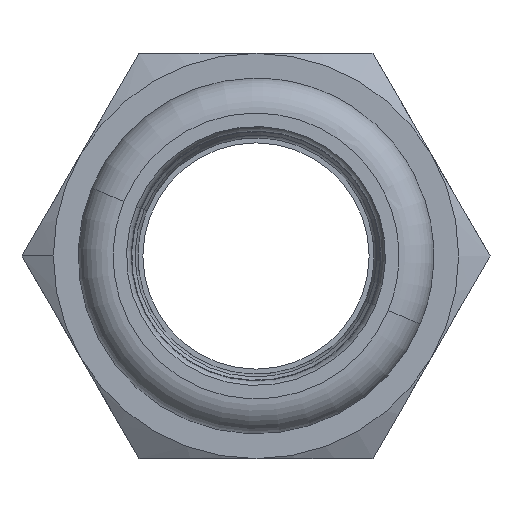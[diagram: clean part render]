
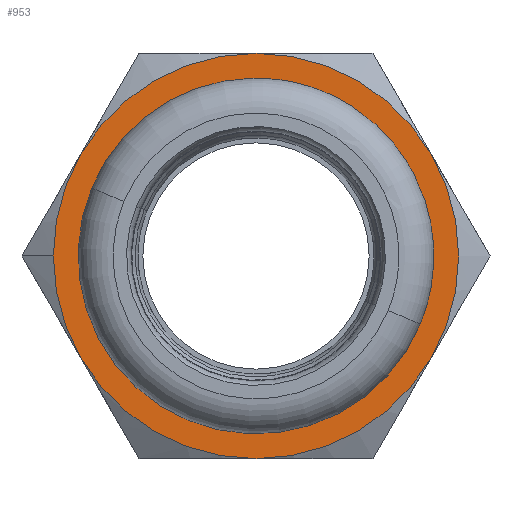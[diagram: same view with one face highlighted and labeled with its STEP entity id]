
A CAD part, left-side view. The second image highlights one B-rep face of the part: STEP entity #953.
In plain terms, the highlighted planar face has unit normal (-1, 0, 0) as drawn and (0, 1, 0) by its records, which use the part's own axes.
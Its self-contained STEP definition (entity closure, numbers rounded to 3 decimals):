
#5 = DIRECTION ( 'NONE',  ( 0., 0., 1. ) ) ;
#46 = AXIS2_PLACEMENT_3D ( 'NONE', #168, #2236, #4299 ) ;
#54 = EDGE_CURVE ( 'NONE', #3242, #1005, #1712, .T. ) ;
#105 = DIRECTION ( 'NONE',  ( 0., 0., -1. ) ) ;
#168 = CARTESIAN_POINT ( 'NONE',  ( 0., 17., 0. ) ) ;
#187 = VERTEX_POINT ( 'NONE', #2225 ) ;
#251 = FACE_BOUND ( 'NONE', #986, .T. ) ;
#314 = AXIS2_PLACEMENT_3D ( 'NONE', #2953, #3345, #3305 ) ;
#335 = DIRECTION ( 'NONE',  ( 0., 0., 1. ) ) ;
#408 = DIRECTION ( 'NONE',  ( 0., -1., 0. ) ) ;
#436 = DIRECTION ( 'NONE',  ( 0., 0., 1. ) ) ;
#439 = DIRECTION ( 'NONE',  ( 0., 0., -1. ) ) ;
#491 = EDGE_LOOP ( 'NONE', ( #2717, #1633, #1274, #535, #3612, #2716, #3619 ) ) ;
#533 = CARTESIAN_POINT ( 'NONE',  ( -15.588, 17., -9. ) ) ;
#535 = ORIENTED_EDGE ( 'NONE', *, *, #2735, .T. ) ;
#539 = AXIS2_PLACEMENT_3D ( 'NONE', #4117, #4410, #335 ) ;
#660 = CARTESIAN_POINT ( 'NONE',  ( 0., 17., 0. ) ) ;
#717 = CARTESIAN_POINT ( 'NONE',  ( 18., 17., 0. ) ) ;
#897 = EDGE_CURVE ( 'NONE', #999, #2768, #3509, .T. ) ;
#953 = ADVANCED_FACE ( 'NONE', ( #251, #1052 ), #3783, .T. ) ;
#986 = EDGE_LOOP ( 'NONE', ( #3042, #2728 ) ) ;
#999 = VERTEX_POINT ( 'NONE', #1497 ) ;
#1005 = VERTEX_POINT ( 'NONE', #1076 ) ;
#1036 = CIRCLE ( 'NONE', #2729, 18. ) ;
#1052 = FACE_OUTER_BOUND ( 'NONE', #491, .T. ) ;
#1076 = CARTESIAN_POINT ( 'NONE',  ( 0., 17., -18. ) ) ;
#1089 = CARTESIAN_POINT ( 'NONE',  ( 0., 17., 0. ) ) ;
#1145 = CARTESIAN_POINT ( 'NONE',  ( 15.588, 17., 9. ) ) ;
#1230 = DIRECTION ( 'NONE',  ( 0., 1., 0. ) ) ;
#1274 = ORIENTED_EDGE ( 'NONE', *, *, #54, .T. ) ;
#1482 = DIRECTION ( 'NONE',  ( 0., 1., 0. ) ) ;
#1496 = AXIS2_PLACEMENT_3D ( 'NONE', #2381, #2345, #2680 ) ;
#1497 = CARTESIAN_POINT ( 'NONE',  ( 0., 17., 12.9 ) ) ;
#1525 = CIRCLE ( 'NONE', #314, 18. ) ;
#1574 = DIRECTION ( 'NONE',  ( 1., 0., 0. ) ) ;
#1633 = ORIENTED_EDGE ( 'NONE', *, *, #1992, .T. ) ;
#1684 = CARTESIAN_POINT ( 'NONE',  ( 15.588, 17., -9. ) ) ;
#1712 = CIRCLE ( 'NONE', #2423, 18. ) ;
#1791 = CIRCLE ( 'NONE', #2529, 18. ) ;
#1837 = DIRECTION ( 'NONE',  ( 0., 1., 0. ) ) ;
#1863 = CARTESIAN_POINT ( 'NONE',  ( 0., 17., -12.9 ) ) ;
#1992 = EDGE_CURVE ( 'NONE', #4041, #3242, #1791, .T. ) ;
#2019 = EDGE_CURVE ( 'NONE', #2073, #2775, #3137, .T. ) ;
#2073 = VERTEX_POINT ( 'NONE', #4317 ) ;
#2081 = DIRECTION ( 'NONE',  ( 0., 1., 0. ) ) ;
#2225 = CARTESIAN_POINT ( 'NONE',  ( -15.588, 17., 9. ) ) ;
#2236 = DIRECTION ( 'NONE',  ( 0., 1., 0. ) ) ;
#2345 = DIRECTION ( 'NONE',  ( 0., 1., 0. ) ) ;
#2381 = CARTESIAN_POINT ( 'NONE',  ( 0., 17., 0. ) ) ;
#2423 = AXIS2_PLACEMENT_3D ( 'NONE', #2821, #1837, #439 ) ;
#2529 = AXIS2_PLACEMENT_3D ( 'NONE', #3282, #1230, #1574 ) ;
#2680 = DIRECTION ( 'NONE',  ( 0., 0., -1. ) ) ;
#2716 = ORIENTED_EDGE ( 'NONE', *, *, #3469, .T. ) ;
#2717 = ORIENTED_EDGE ( 'NONE', *, *, #3981, .T. ) ;
#2728 = ORIENTED_EDGE ( 'NONE', *, *, #3957, .T. ) ;
#2729 = AXIS2_PLACEMENT_3D ( 'NONE', #3197, #1482, #105 ) ;
#2735 = EDGE_CURVE ( 'NONE', #1005, #4020, #1036, .T. ) ;
#2768 = VERTEX_POINT ( 'NONE', #1863 ) ;
#2775 = VERTEX_POINT ( 'NONE', #1145 ) ;
#2821 = CARTESIAN_POINT ( 'NONE',  ( 0., 17., 0. ) ) ;
#2953 = CARTESIAN_POINT ( 'NONE',  ( 0., 17., 0. ) ) ;
#3013 = AXIS2_PLACEMENT_3D ( 'NONE', #660, #2081, #5 ) ;
#3042 = ORIENTED_EDGE ( 'NONE', *, *, #897, .T. ) ;
#3137 = CIRCLE ( 'NONE', #46, 18. ) ;
#3148 = DIRECTION ( 'NONE',  ( 1., 0., 0. ) ) ;
#3197 = CARTESIAN_POINT ( 'NONE',  ( 0., 17., 0. ) ) ;
#3242 = VERTEX_POINT ( 'NONE', #1684 ) ;
#3282 = CARTESIAN_POINT ( 'NONE',  ( 0., 17., 0. ) ) ;
#3286 = EDGE_CURVE ( 'NONE', #4020, #187, #4093, .T. ) ;
#3305 = DIRECTION ( 'NONE',  ( 1., 0., 0. ) ) ;
#3343 = CIRCLE ( 'NONE', #4295, 18. ) ;
#3345 = DIRECTION ( 'NONE',  ( 0., 1., 0. ) ) ;
#3469 = EDGE_CURVE ( 'NONE', #187, #2073, #1525, .T. ) ;
#3479 = CARTESIAN_POINT ( 'NONE',  ( 0., 17., 0. ) ) ;
#3509 = CIRCLE ( 'NONE', #539, 12.9 ) ;
#3581 = AXIS2_PLACEMENT_3D ( 'NONE', #1089, #408, #436 ) ;
#3612 = ORIENTED_EDGE ( 'NONE', *, *, #3286, .T. ) ;
#3619 = ORIENTED_EDGE ( 'NONE', *, *, #2019, .T. ) ;
#3783 = PLANE ( 'NONE',  #3013 ) ;
#3856 = DIRECTION ( 'NONE',  ( 0., 1., 0. ) ) ;
#3957 = EDGE_CURVE ( 'NONE', #2768, #999, #4350, .T. ) ;
#3981 = EDGE_CURVE ( 'NONE', #2775, #4041, #3343, .T. ) ;
#4020 = VERTEX_POINT ( 'NONE', #533 ) ;
#4041 = VERTEX_POINT ( 'NONE', #717 ) ;
#4093 = CIRCLE ( 'NONE', #1496, 18. ) ;
#4117 = CARTESIAN_POINT ( 'NONE',  ( 0., 17., 0. ) ) ;
#4295 = AXIS2_PLACEMENT_3D ( 'NONE', #3479, #3856, #3148 ) ;
#4299 = DIRECTION ( 'NONE',  ( 1., 0., 0. ) ) ;
#4317 = CARTESIAN_POINT ( 'NONE',  ( 0., 17., 18. ) ) ;
#4350 = CIRCLE ( 'NONE', #3581, 12.9 ) ;
#4410 = DIRECTION ( 'NONE',  ( 0., -1., 0. ) ) ;
